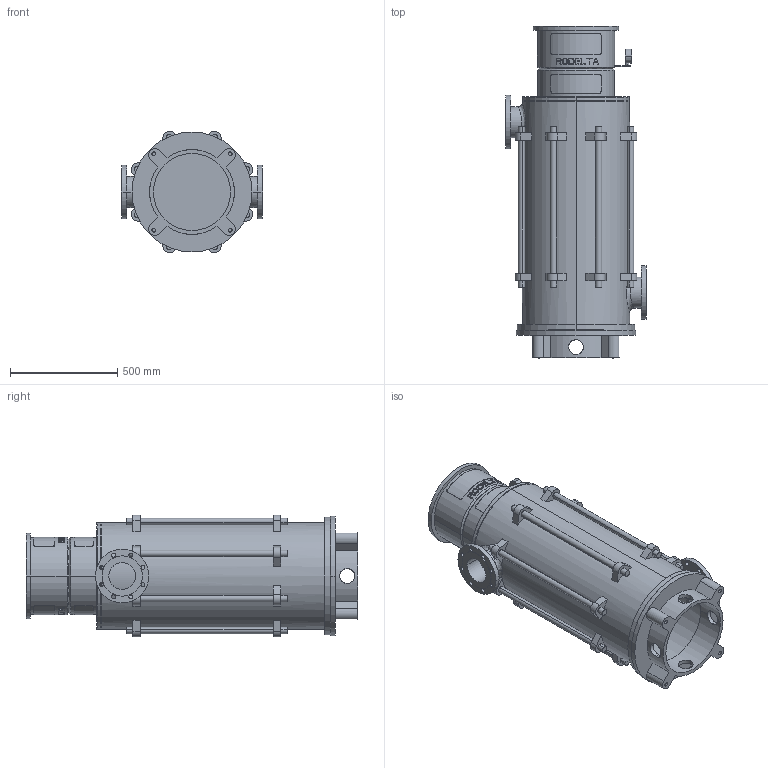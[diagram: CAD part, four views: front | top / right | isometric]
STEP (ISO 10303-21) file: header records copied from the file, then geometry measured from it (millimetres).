
FILE_DESCRIPTION((''),'2;1');
FILE_NAME('LS5_6TR_0GR_TOT_30KW','2023-08-08T',('Lyritlocal'),(''),'PRO/ENGINEER BY PARAMETRIC TECHNOLOGY CORPORATION, 2016360','PRO/ENGINEER BY PARAMETRIC TECHNOLOGY CORPORATION, 2016360','');
FILE_SCHEMA(('CONFIG_CONTROL_DESIGN'));
Length unit declared in the file: millimetre
Products named in the file (1): LS5_6TR_0GR_TOT_30KW
Bounding box: 660 x 1550 x 568.08 mm (x, y, z)
Volume: 42740553 mm3; surface area: 6335302.5 mm2
Topology: 3 solids, 7 shells, 672 faces, 1747 edges, 1158 vertices
Faces by surface type: plane 414, cylinder 242, cone 12, bspline 4
Entity records: 21931 total; most frequent: CARTESIAN_POINT 5487, ORIENTED_EDGE 3478, DIRECTION 3269, EDGE_CURVE 1747, AXIS2_PLACEMENT_3D 1241, VERTEX_POINT 1158, EDGE_LOOP 809, VECTOR 787
